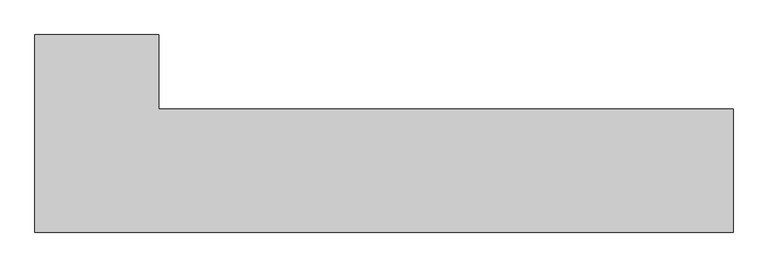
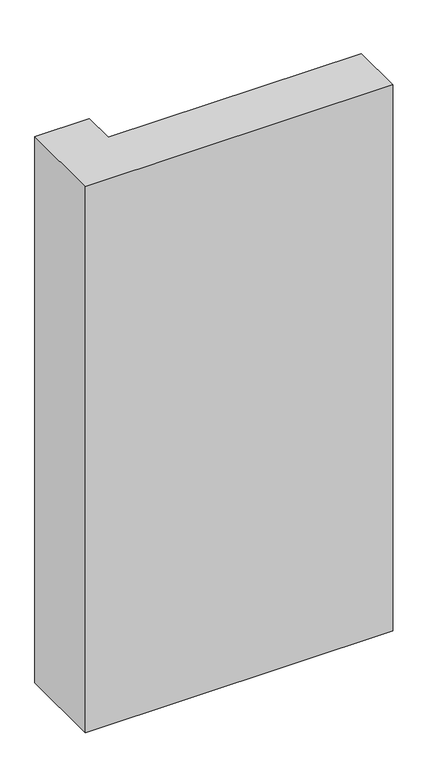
"""IFC4 building model written with IfcOpenShell, lengths in millimetres: column geometry, Columna Estructural Ele : ECO_Ele 40x141x25."""

from ifc_helpers import new_model, si_unit, frame, origin, place, context, project, spatial, polyline, outline, extrude, source, transform, mapped, element, save


def column_d2b6d631(model_context):
    return source(origin(), model_context, "Body", "SweptSolid", [
        extrude(outline(polyline([(125.0, 275.0), (125.0, 125.0), (1285.0, 125.0), (1285.0, -125.0), (-125.0, -125.0), (-125.0, 275.0), (125.0, 275.0)])), frame((0.0, 0.0, 10700.0), z_axis=(0.0, 0.0, 1.0), x_axis=(1.0, 0.0, 0.0)), (0.0, 0.0, 1.0), 2650.0),
    ])


if __name__ == "__main__":
    model = new_model("IFC4")
    model_context = context("Model", 3, world=origin())
    ifc_project = project(units=[si_unit("LENGTHUNIT", "METRE", prefix="MILLI")], contexts=[model_context])
    site = spatial("IfcSite", under=ifc_project)
    building = spatial("IfcBuilding", under=site)
    placement = place(None, origin())
    column_shape = column_d2b6d631(model_context)
    element("IfcColumn", 1, ObjectType="Columna Estructural Ele : ECO_Ele 40x141x25", at=placement, inside=building, context=model_context, shape_type="MappedRepresentation", body=[
        mapped(column_shape, transform((0.0, 0.0, 0.0), x_axis=(1.0, 0.0, 0.0), y_axis=(0.0, 1.0, 0.0), z_axis=(0.0, 0.0, 1.0))),
    ])
    save(model, "model.ifc")
